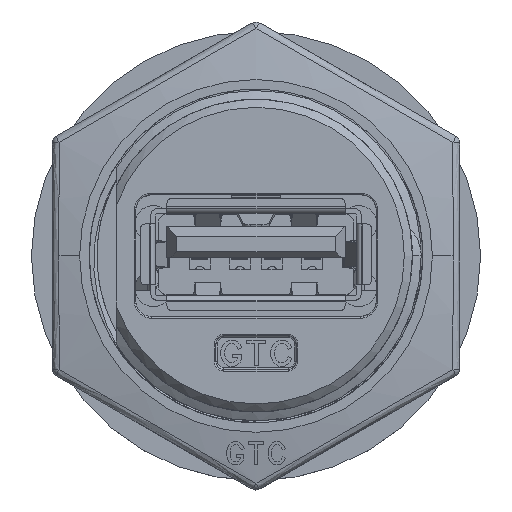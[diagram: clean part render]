
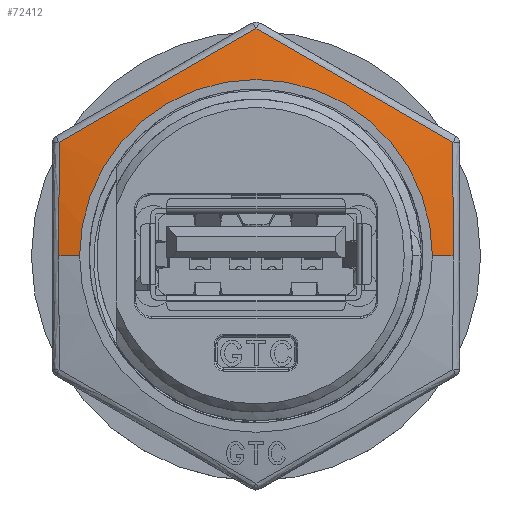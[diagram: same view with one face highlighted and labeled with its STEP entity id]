
A CAD part, top view. The second image highlights one B-rep face of the part: STEP entity #72412.
In plain terms, the highlighted conical face has half-angle 80 degrees and reference radius 11 mm.
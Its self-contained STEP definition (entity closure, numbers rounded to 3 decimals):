
#1632 = FACE_OUTER_BOUND ( 'NONE', #44113, .T. ) ;
#1645 = CONICAL_SURFACE ( 'NONE', #75653, 11., 1.396 ) ;
#3505 = DIRECTION ( 'NONE',  ( -1., 0., 0. ) ) ;
#3510 = DIRECTION ( 'NONE',  ( 0., 0., -1. ) ) ;
#3512 = CARTESIAN_POINT ( 'NONE',  ( 0., 0., 2. ) ) ;
#7722 = DIRECTION ( 'NONE',  ( -0.985, 0., -0.174 ) ) ;
#7745 = CARTESIAN_POINT ( 'NONE',  ( -11., 0., 2. ) ) ;
#7750 = CARTESIAN_POINT ( 'NONE',  ( -12.287, 2.368, 1.773 ) ) ;
#7753 = CARTESIAN_POINT ( 'NONE',  ( -12.287, 0., 1.773 ) ) ;
#7866 = CARTESIAN_POINT ( 'NONE',  ( 8.195, 9.456, 1.773 ) ) ;
#7869 = CARTESIAN_POINT ( 'NONE',  ( -10.237, 8.271, 1.647 ) ) ;
#7873 = CARTESIAN_POINT ( 'NONE',  ( -12.275, 7.087, 1.44 ) ) ;
#7877 = CARTESIAN_POINT ( 'NONE',  ( -8.191, 9.458, 1.773 ) ) ;
#7880 = CARTESIAN_POINT ( 'NONE',  ( -12.281, 4.729, 1.647 ) ) ;
#7883 = CARTESIAN_POINT ( 'NONE',  ( -4.092, 11.825, 1.773 ) ) ;
#7886 = CARTESIAN_POINT ( 'NONE',  ( 2.045, 13.001, 1.647 ) ) ;
#7894 = CARTESIAN_POINT ( 'NONE',  ( 0., 14.174, 1.44 ) ) ;
#7899 = CARTESIAN_POINT ( 'NONE',  ( -2.044, 13.001, 1.647 ) ) ;
#7906 = CARTESIAN_POINT ( 'NONE',  ( 4.095, 11.823, 1.773 ) ) ;
#15922 = EDGE_CURVE ( 'NONE', #34822, #43997, #35857, .T. ) ;
#15923 = EDGE_CURVE ( 'NONE', #43997, #43985, #35858, .T. ) ;
#15924 = EDGE_CURVE ( 'NONE', #43985, #44001, #37206, .T. ) ;
#15925 = EDGE_CURVE ( 'NONE', #44001, #43814, #37191, .T. ) ;
#15926 = EDGE_CURVE ( 'NONE', #43814, #43992, #37186, .T. ) ;
#15927 = EDGE_CURVE ( 'NONE', #43992, #43991, #37160, .T. ) ;
#15928 = EDGE_CURVE ( 'NONE', #34822, #43991, #35860, .T. ) ;
#17445 = AXIS2_PLACEMENT_3D ( 'NONE', #44639, #44613, #44625 ) ;
#21764 = ORIENTED_EDGE ( 'NONE', *, *, #15922, .T. ) ;
#21766 = ORIENTED_EDGE ( 'NONE', *, *, #15923, .T. ) ;
#21768 = ORIENTED_EDGE ( 'NONE', *, *, #15924, .T. ) ;
#21770 = ORIENTED_EDGE ( 'NONE', *, *, #15925, .T. ) ;
#21772 = ORIENTED_EDGE ( 'NONE', *, *, #15926, .T. ) ;
#21774 = ORIENTED_EDGE ( 'NONE', *, *, #15927, .T. ) ;
#21776 = ORIENTED_EDGE ( 'NONE', *, *, #15928, .F. ) ;
#34822 = VERTEX_POINT ( 'NONE', #67932 ) ;
#35857 = CIRCLE ( 'NONE', #17445, 11. ) ;
#35858 = LINE ( 'NONE', #44629, #35862 ) ;
#35860 = LINE ( 'NONE', #7745, #35861 ) ;
#35861 = VECTOR ( 'NONE', #7722, 1000. ) ;
#35862 = VECTOR ( 'NONE', #44624, 1000. ) ;
#37160 = B_SPLINE_CURVE_WITH_KNOTS ( 'NONE', 3,
 ( #44547, #7880, #7750, #7753 ),
 .UNSPECIFIED., .F., .F.,
 ( 4, 4 ),
 ( 0., 0.007 ),
 .UNSPECIFIED. ) ;
#37186 = B_SPLINE_CURVE_WITH_KNOTS ( 'NONE', 3,
 ( #44626, #7899, #7883, #7877, #7869, #7873 ),
 .UNSPECIFIED., .F., .F.,
 ( 4, 2, 4 ),
 ( 0., 0.007, 0.014 ),
 .UNSPECIFIED. ) ;
#37191 = B_SPLINE_CURVE_WITH_KNOTS ( 'NONE', 3,
 ( #44637, #44544, #7866, #7906, #7886, #7894 ),
 .UNSPECIFIED., .F., .F.,
 ( 4, 2, 4 ),
 ( 0., 0.007, 0.014 ),
 .UNSPECIFIED. ) ;
#37206 = B_SPLINE_CURVE_WITH_KNOTS ( 'NONE', 3,
 ( #44549, #44611, #44641, #44627 ),
 .UNSPECIFIED., .F., .F.,
 ( 4, 4 ),
 ( 0.007, 0.014 ),
 .UNSPECIFIED. ) ;
#43814 = VERTEX_POINT ( 'NONE', #68082 ) ;
#43985 = VERTEX_POINT ( 'NONE', #68132 ) ;
#43991 = VERTEX_POINT ( 'NONE', #68138 ) ;
#43992 = VERTEX_POINT ( 'NONE', #68139 ) ;
#43997 = VERTEX_POINT ( 'NONE', #68117 ) ;
#44001 = VERTEX_POINT ( 'NONE', #68146 ) ;
#44113 = EDGE_LOOP ( 'NONE', ( #21764, #21766, #21768, #21770, #21772, #21774, #21776 ) ) ;
#44544 = CARTESIAN_POINT ( 'NONE',  ( 10.237, 8.271, 1.647 ) ) ;
#44547 = CARTESIAN_POINT ( 'NONE',  ( -12.275, 7.087, 1.44 ) ) ;
#44549 = CARTESIAN_POINT ( 'NONE',  ( 12.287, 0., 1.773 ) ) ;
#44611 = CARTESIAN_POINT ( 'NONE',  ( 12.287, 2.366, 1.773 ) ) ;
#44613 = DIRECTION ( 'NONE',  ( 0., 0., -1. ) ) ;
#44624 = DIRECTION ( 'NONE',  ( 0.985, 0., -0.174 ) ) ;
#44625 = DIRECTION ( 'NONE',  ( -1., 0., 0. ) ) ;
#44626 = CARTESIAN_POINT ( 'NONE',  ( 0., 14.174, 1.44 ) ) ;
#44627 = CARTESIAN_POINT ( 'NONE',  ( 12.275, 7.087, 1.44 ) ) ;
#44629 = CARTESIAN_POINT ( 'NONE',  ( 11., 0., 2. ) ) ;
#44637 = CARTESIAN_POINT ( 'NONE',  ( 12.275, 7.087, 1.44 ) ) ;
#44639 = CARTESIAN_POINT ( 'NONE',  ( 0., 0., 2. ) ) ;
#44641 = CARTESIAN_POINT ( 'NONE',  ( 12.281, 4.73, 1.647 ) ) ;
#67932 = CARTESIAN_POINT ( 'NONE',  ( -11., 0., 2. ) ) ;
#68082 = CARTESIAN_POINT ( 'NONE',  ( 0., 14.174, 1.44 ) ) ;
#68117 = CARTESIAN_POINT ( 'NONE',  ( 11., 0., 2. ) ) ;
#68132 = CARTESIAN_POINT ( 'NONE',  ( 12.287, 0., 1.773 ) ) ;
#68138 = CARTESIAN_POINT ( 'NONE',  ( -12.287, 0., 1.773 ) ) ;
#68139 = CARTESIAN_POINT ( 'NONE',  ( -12.275, 7.087, 1.44 ) ) ;
#68146 = CARTESIAN_POINT ( 'NONE',  ( 12.275, 7.087, 1.44 ) ) ;
#72412 = ADVANCED_FACE ( 'NONE', ( #1632 ), #1645, .T. ) ;
#75653 = AXIS2_PLACEMENT_3D ( 'NONE', #3512, #3510, #3505 ) ;
